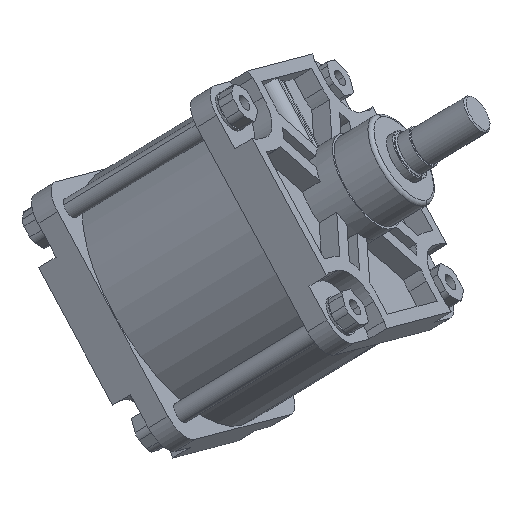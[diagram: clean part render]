
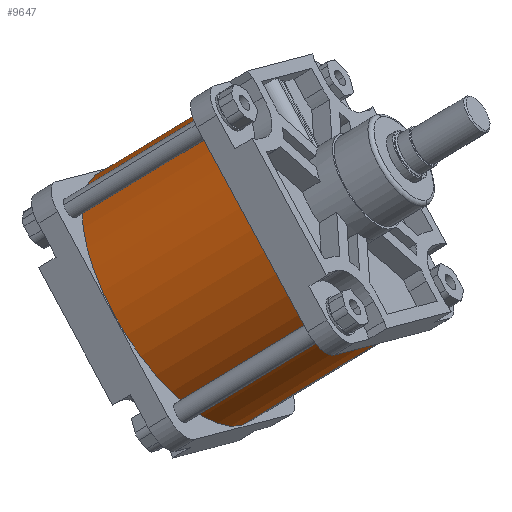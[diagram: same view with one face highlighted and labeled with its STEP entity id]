
A CAD part, top view. The second image highlights one B-rep face of the part: STEP entity #9647.
In plain terms, the highlighted cylindrical face has radius 168 mm (diameter 336 mm), a partial arc.
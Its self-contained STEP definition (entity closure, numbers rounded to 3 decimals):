
#8886=CARTESIAN_POINT('Vertex',(0.,168.,0.)) ;
#8888=CARTESIAN_POINT('Vertex',(0.,-168.,0.)) ;
#8891=CARTESIAN_POINT('Axis2P3D Location',(0.,0.,0.)) ;
#9605=CARTESIAN_POINT('Axis2P3D Location',(-103.,0.,0.)) ;
#9610=CARTESIAN_POINT('Line Origine',(-103.,168.,0.)) ;
#9614=CARTESIAN_POINT('Vertex',(-206.,168.,0.)) ;
#9617=CARTESIAN_POINT('Line Origine',(-103.,-168.,0.)) ;
#9621=CARTESIAN_POINT('Vertex',(-206.,-168.,0.)) ;
#9636=CARTESIAN_POINT('Axis2P3D Location',(-206.,0.,0.)) ;
#8892=DIRECTION('Axis2P3D Direction',(1.,0.,0.)) ;
#9606=DIRECTION('Axis2P3D Direction',(-1.,-0.,0.)) ;
#9607=DIRECTION('Axis2P3D XDirection',(0.,-1.,0.)) ;
#9611=DIRECTION('Vector Direction',(-1.,0.,0.)) ;
#9618=DIRECTION('Vector Direction',(-1.,0.,0.)) ;
#9637=DIRECTION('Axis2P3D Direction',(-1.,-0.,0.)) ;
#8893=AXIS2_PLACEMENT_3D('Circle Axis2P3D',#8891,#8892,$) ;
#9608=AXIS2_PLACEMENT_3D('Cylinder Axis2P3D',#9605,#9606,#9607) ;
#9638=AXIS2_PLACEMENT_3D('Circle Axis2P3D',#9636,#9637,$) ;
#9642=ORIENTED_EDGE('',*,*,#9623,.F.) ;
#9643=ORIENTED_EDGE('',*,*,#8895,.T.) ;
#9644=ORIENTED_EDGE('',*,*,#9616,.T.) ;
#9645=ORIENTED_EDGE('',*,*,#9640,.F.) ;
#9612=VECTOR('Line Direction',#9611,1.) ;
#9619=VECTOR('Line Direction',#9618,1.) ;
#9647=ADVANCED_FACE('PartBody',(#9646),#9609,.T.) ;
#8894=CIRCLE('generated circle',#8893,168.) ;
#9639=CIRCLE('generated circle',#9638,168.) ;
#9609=CYLINDRICAL_SURFACE('generated cylinder',#9608,168.) ;
#8895=EDGE_CURVE('',#8889,#8887,#8894,.F.) ;
#9616=EDGE_CURVE('',#8887,#9615,#9613,.T.) ;
#9623=EDGE_CURVE('',#8889,#9622,#9620,.T.) ;
#9640=EDGE_CURVE('',#9622,#9615,#9639,.T.) ;
#9641=EDGE_LOOP('',(#9642,#9643,#9644,#9645)) ;
#9646=FACE_OUTER_BOUND('',#9641,.T.) ;
#9613=LINE('Line',#9610,#9612) ;
#9620=LINE('Line',#9617,#9619) ;
#8887=VERTEX_POINT('',#8886) ;
#8889=VERTEX_POINT('',#8888) ;
#9615=VERTEX_POINT('',#9614) ;
#9622=VERTEX_POINT('',#9621) ;
